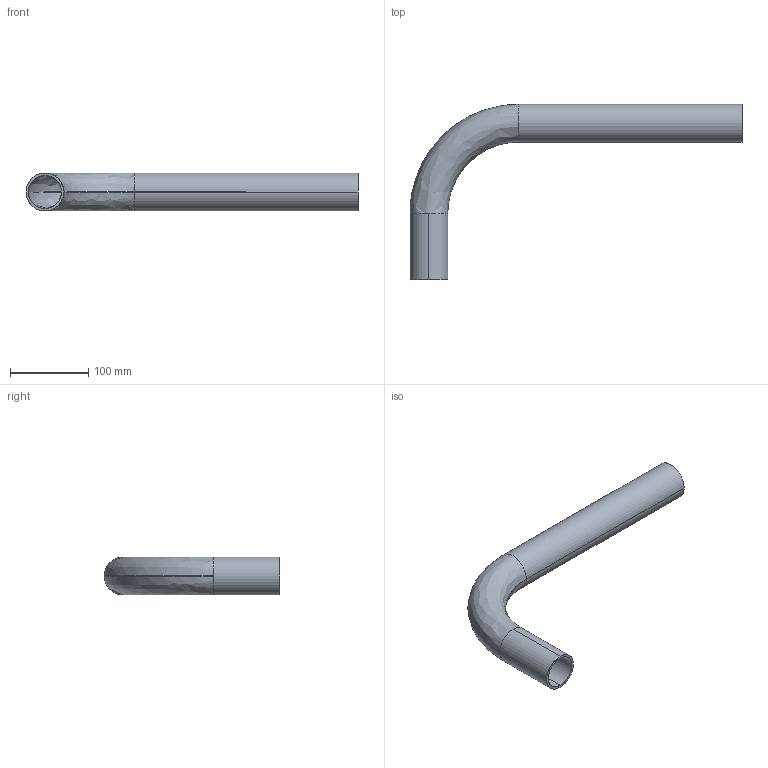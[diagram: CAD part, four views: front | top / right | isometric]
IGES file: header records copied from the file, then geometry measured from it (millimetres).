
Start section: SolidWorks IGES file using analytic representation for surfaces
Global section: file name: Z:\Proje\Kollar\048-Paslanmaz\BÜKÜMLÜ_PROFÝLLER\STEP\TK048.L.0200.0400.IGS; native system: SolidWorks 2022; preprocessor: SolidWorks 2022; author: PC; date: 260730.075810; units: millimetre
Bounding box: 424.15 x 224.15 x 48.3 mm (x, y, z)
Surface area: 157624.5 mm2 (no closed solid volume)
Topology: 0 solids, 0 shells, 14 faces, 312 edges, 312 vertices
Faces by surface type: revolution 8, bspline 6
